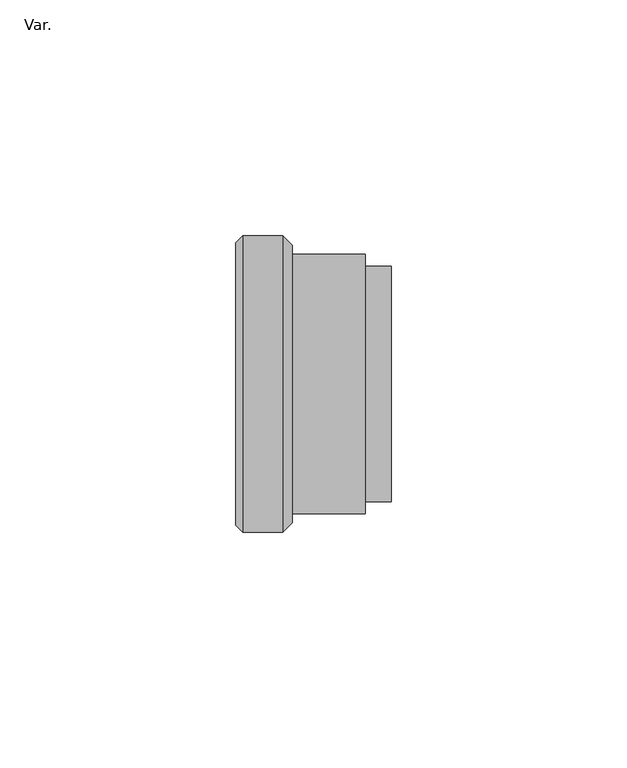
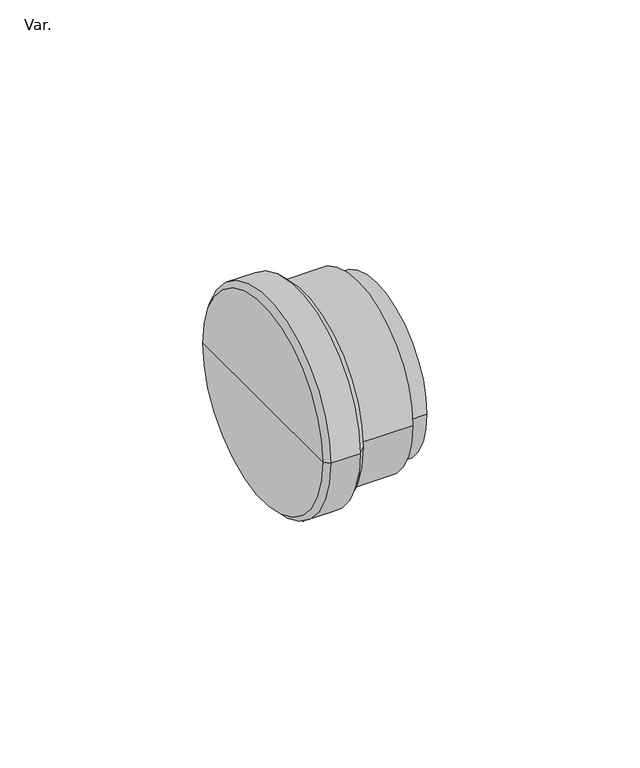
"""IFC4 building model written with IfcOpenShell, lengths in millimetres: pipe fitting geometry, NLRS_52_PIF_UN_HDPE urinal connector socket_Akatherm : Var.."""

import ifcopenshell
import ifcopenshell.guid

model = None  # the IFC model being written
_history = None  # IfcOwnerHistory: only IFC2X3 demands one
_inside = {}  # id of a spatial element -> (the spatial element, [elements in it])
_under = {}  # id of a project, library or spatial element -> (it, [spatial elements below it])
_declared = {}  # id of a project -> (the project, [libraries it declares])
_typed = {}  # id of a type object -> (the type object, [elements of that type])
_made_of = {}  # id of a material, layer set ... -> (it, [elements and type objects made of it])


def new_model(schema):
    """Start an empty IFC model of exactly this schema.

    Asked for "IFC4X3", IfcOpenShell would pick the latest addendum, in which some entities
    have other attributes; the version numbers below select the first issue.
    IFC2X3 requires an IfcOwnerHistory on every rooted entity: one is made here for all.
    """
    global model, _history
    if schema == "IFC4X3":
        model = ifcopenshell.file(schema_version=(4, 3, 0, 0))
    else:
        model = ifcopenshell.file(schema=schema)
    _inside.clear()
    _under.clear()
    _declared.clear()
    _typed.clear()
    _made_of.clear()
    _history = None
    if model.schema == "IFC2X3":
        org = make("IfcOrganization", Name="unknown")
        user = make(
            "IfcPersonAndOrganization",
            ThePerson=make("IfcPerson", FamilyName="unknown"),
            TheOrganization=org,
        )
        app = make(
            "IfcApplication",
            ApplicationDeveloper=org,
            Version="unknown",
            ApplicationFullName="unknown",
            ApplicationIdentifier="unknown",
        )
        _history = make(
            "IfcOwnerHistory",
            OwningUser=user,
            OwningApplication=app,
            ChangeAction="ADDED",
            CreationDate=0,
        )
    return model


def make(cls, **values):
    """One entity of the class cls with the attributes given. An attribute that is None is left unset."""
    return model.create_entity(
        cls, **{name: value for name, value in values.items() if value is not None}
    )


def rooted(cls, **values):
    """An entity with a GlobalId (a new one), such as an element, a storey or a relation."""
    return make(cls, GlobalId=ifcopenshell.guid.new(), OwnerHistory=_history, **values)


def si_unit(unit_type, name, prefix=None):
    """IfcSIUnit, for example si_unit("LENGTHUNIT", "METRE", prefix="MILLI")."""
    return make("IfcSIUnit", UnitType=unit_type, Prefix=prefix, Name=name)


def assignment(units):
    """IfcUnitAssignment: the units of a project."""
    return None if units is None else make("IfcUnitAssignment", Units=units)


def point(xyz):
    """IfcCartesianPoint."""
    return None if xyz is None else make("IfcCartesianPoint", Coordinates=xyz)


def direction(xyz):
    """IfcDirection."""
    return None if xyz is None else make("IfcDirection", DirectionRatios=xyz)


def frame(location, z_axis=None, x_axis=None):
    """IfcAxis2Placement3D, a coordinate frame: its origin and axes. An axis left out is left unset."""
    return make(
        "IfcAxis2Placement3D",
        Location=point(location),
        Axis=direction(z_axis),
        RefDirection=direction(x_axis),
    )


def origin():
    """The frame at (0, 0, 0) with its axes left unset."""
    return frame((0.0, 0.0, 0.0))


def place(relative_to, where):
    """IfcLocalPlacement: puts the frame where relative to a parent placement (None: the world)."""
    return make(
        "IfcLocalPlacement", PlacementRelTo=relative_to, RelativePlacement=where
    )


def context(
    kind, dimensions, precision=None, world=None, true_north=None, identifier=None
):
    """IfcGeometricRepresentationContext, for example the 3D "Model" context."""
    return make(
        "IfcGeometricRepresentationContext",
        ContextIdentifier=identifier,
        ContextType=kind,
        CoordinateSpaceDimension=dimensions,
        Precision=precision,
        WorldCoordinateSystem=world,
        TrueNorth=true_north,
    )


def project(units=None, contexts=None):
    """IfcProject with its units and contexts."""
    return rooted(
        "IfcProject",
        Name="project",
        RepresentationContexts=contexts,
        UnitsInContext=assignment(units),
    )


def spatial(cls, under=None, at=None, **own):
    """A site, building, storey or space (cls), placed at a placement, below another one or the project."""
    s = rooted(cls, ObjectPlacement=at, **own)
    if under is not None:
        _under.setdefault(under.id(), (under, []))[1].append(s)
    return s


def polyline(points):
    """IfcPolyline through the points."""
    return make("IfcPolyline", Points=[point(p) for p in points])


def circle_curve(where, radius):
    """IfcCircle in the frame where."""
    return make("IfcCircle", Position=where, Radius=radius)


def shape(context_of_items, identifier, shape_type, items):
    """IfcShapeRepresentation: the items that make up one representation, for example the "Body"."""
    return make(
        "IfcShapeRepresentation",
        ContextOfItems=context_of_items,
        RepresentationIdentifier=identifier,
        RepresentationType=shape_type,
        Items=items,
    )


def source(mapping_origin, context_of_items, identifier, shape_type, items):
    """IfcRepresentationMap: a shape defined once, which mapped items show again and again."""
    return make(
        "IfcRepresentationMap",
        MappingOrigin=mapping_origin,
        MappedRepresentation=shape(context_of_items, identifier, shape_type, items),
    )


def transform(
    local_origin,
    x_axis=None,
    y_axis=None,
    z_axis=None,
    scale=None,
    scale2=None,
    scale3=None,
    uniform=True,
):
    """IfcCartesianTransformationOperator3D, or its non-uniform kind. x_axis, y_axis, z_axis: its Axis1, 2, 3."""
    if uniform:
        return make(
            "IfcCartesianTransformationOperator3D",
            Axis1=direction(x_axis),
            Axis2=direction(y_axis),
            LocalOrigin=point(local_origin),
            Scale=scale,
            Axis3=direction(z_axis),
        )
    return make(
        "IfcCartesianTransformationOperator3DnonUniform",
        Axis1=direction(x_axis),
        Axis2=direction(y_axis),
        LocalOrigin=point(local_origin),
        Scale=scale,
        Axis3=direction(z_axis),
        Scale2=scale2,
        Scale3=scale3,
    )


def mapped(mapping_source, mapping_target):
    """IfcMappedItem: shows the shape of a source again, moved by a transform."""
    return make(
        "IfcMappedItem", MappingSource=mapping_source, MappingTarget=mapping_target
    )


def made_of(thing, what):
    """Note that an element or type object is made of a material, layer set ...; save() writes the relation."""
    if what is not None:
        _made_of.setdefault(what.id(), (what, []))[1].append(thing)
    return thing


def element(
    cls,
    number,
    at=None,
    inside=None,
    cuts=None,
    type_object=None,
    material=None,
    context=None,
    identifier="Body",
    shape_type=None,
    held_by="IfcProductDefinitionShape",
    body=None,
    shapes=None,
    **own,
):
    """One element of the class cls, such as IfcWall. Its Tag is "e" and its number.

    at: its placement. inside: the storey or other place that contains it. cuts: it is an
    opening in that element (IfcRelVoidsElement). A single representation is given by context,
    identifier, shape_type and body (its items); several are given by shapes. held_by: the class
    of the entity that holds the representations. save() writes the other relations.
    """
    e = rooted(cls, Tag="e%d" % number, ObjectPlacement=at, **own)
    if body is not None:
        shapes = [shape(context, identifier, shape_type, body)]
    if shapes is not None:
        e.Representation = make(held_by, Representations=shapes)
    if inside is not None:
        _inside.setdefault(inside.id(), (inside, []))[1].append(e)
    if cuts is not None:
        rooted(
            "IfcRelVoidsElement", RelatingBuildingElement=cuts, RelatedOpeningElement=e
        )
    if type_object is not None:
        _typed.setdefault(type_object.id(), (type_object, []))[1].append(e)
    return made_of(e, material)


def aggregate(whole, parts):
    """IfcRelAggregates: a whole, such as a stair, and the parts it consists of."""
    return rooted("IfcRelAggregates", RelatingObject=whole, RelatedObjects=parts)


def save(model, path):
    """Write the relations noted so far, then the file.

    IfcRelAggregates (storeys below a building ...), IfcRelContainedInSpatialStructure (elements
    in a storey), IfcRelDefinesByType, IfcRelAssociatesMaterial and IfcRelDeclares: one each for
    every whole, place, type object, material and project.
    """
    for whole, parts in _under.values():
        aggregate(whole, parts)
    for where, things in _inside.values():
        rooted(
            "IfcRelContainedInSpatialStructure",
            RelatedElements=things,
            RelatingStructure=where,
        )
    for kind, things in _typed.values():
        rooted("IfcRelDefinesByType", RelatedObjects=things, RelatingType=kind)
    for what, things in _made_of.values():
        rooted("IfcRelAssociatesMaterial", RelatedObjects=things, RelatingMaterial=what)
    for by, libraries in _declared.values():
        rooted("IfcRelDeclares", RelatingContext=by, RelatedDefinitions=libraries)
    model.write(path)


def plane_surface(at):
    """IfcPlane: the flat surface through the origin of the frame at, square to its z axis."""
    return make("IfcPlane", Position=at)


def cylinder_surface(at, radius):
    """IfcCylindricalSurface: all points at the distance radius from the z axis of the frame at."""
    return make("IfcCylindricalSurface", Position=at, Radius=radius)


def revolved_surface(curve, axis_point, axis_direction):
    """IfcSurfaceOfRevolution: the curve turned about the line through axis_point along axis_direction."""
    return make(
        "IfcSurfaceOfRevolution",
        SweptCurve=make("IfcArbitraryOpenProfileDef", ProfileType="CURVE", Curve=curve),
        AxisPosition=make("IfcAxis1Placement", Location=point(axis_point), Axis=direction(axis_direction)),
    )


def advanced_brep(points, edges, surfaces, faces):
    """IfcAdvancedBrep: a solid bounded by faces that lie on surfaces and meet in shared edges.

    An edge is (start, end): straight between two places in points (the first is 0);
    or (start, end, curve); or (start, end, curve, False) where it runs against its curve.
    A face is (place in surfaces, loops), or (place, loops, False) where it looks against
    its surface's normal. A loop lists edges by number (the first is 1), with a minus sign
    where the edge is run from its end to its start. The first loop is the outer one.
    """
    corners = [point(p) for p in points]
    vertices = [make("IfcVertexPoint", VertexGeometry=c) for c in corners]
    made = []
    for start, end, *more in edges:
        made.append(
            make(
                "IfcEdgeCurve",
                EdgeStart=vertices[start],
                EdgeEnd=vertices[end],
                EdgeGeometry=more[0] if more else make("IfcPolyline", Points=[corners[start], corners[end]]),
                SameSense=more[1] if len(more) > 1 else True,
            )
        )
    hull = []
    for where, loops, *sense in faces:
        bounds = []
        for j, loop in enumerate(loops):
            ring = [make("IfcOrientedEdge", EdgeElement=made[abs(k) - 1], Orientation=k > 0) for k in loop]
            bounds.append(
                make(
                    "IfcFaceOuterBound" if j == 0 else "IfcFaceBound",
                    Bound=make("IfcEdgeLoop", EdgeList=ring),
                    Orientation=True,
                )
            )
        hull.append(make("IfcAdvancedFace", Bounds=bounds, FaceSurface=surfaces[where], SameSense=sense[0] if sense else True))
    return make("IfcAdvancedBrep", Outer=make("IfcClosedShell", CfsFaces=hull))


def var_edb43545(model_context):
    return source(origin(), model_context, "Body", "AdvancedBrep", [
        advanced_brep(
        [(3.25, -25.0, 0.0), (3.25, 25.0, 0.0), (3.25, 0.0, 0.0), (-29.75, 0.0, 0.0), (-29.75, 30.0, 0.0), (-29.75, -30.0, 0.0), (-28.25, 31.5, 0.0), (-28.25, -31.5, 0.0), (-19.75, 31.5, 0.0), (-19.75, -31.5, 0.0), (-17.75, 29.5, 0.0), (-17.75, -29.5, 0.0), (-17.75, 27.5, 0.0), (-17.75, -27.5, 0.0), (-2.25, 27.5, 0.0), (-2.25, -27.5, 0.0), (-2.25, 25.0, 0.0), (-2.25, -25.0, 0.0)],
        [
            (0, 1, circle_curve(frame((3.25, 0.0, 0.0), z_axis=(1.0, 0.0, 0.0), x_axis=(0.0, 1.0, 0.0)), 25.0)),
            (1, 2),
            (2, 0),
            (1, 0, circle_curve(frame((3.25, 0.0, 0.0), z_axis=(1.0, 0.0, 0.0), x_axis=(0.0, 1.0, 0.0)), 25.0)),
            (3, 4),
            (4, 5, circle_curve(frame((-29.75, 0.0, 0.0), z_axis=(-1.0, 0.0, 0.0), x_axis=(0.0, 1.0, 0.0)), 30.0)),
            (5, 3),
            (5, 4, circle_curve(frame((-29.75, 0.0, 0.0), z_axis=(-1.0, 0.0, 0.0), x_axis=(0.0, 1.0, 0.0)), 30.0)),
            (4, 6),
            (6, 7, circle_curve(frame((-28.25, 0.0, 0.0), z_axis=(-1.0, 0.0, 0.0), x_axis=(0.0, 1.0, 0.0)), 31.5)),
            (7, 5),
            (7, 6, circle_curve(frame((-28.25, 0.0, 0.0), z_axis=(-1.0, 0.0, 0.0), x_axis=(0.0, 1.0, 0.0)), 31.5)),
            (6, 8),
            (8, 9, circle_curve(frame((-19.75, 0.0, 0.0), z_axis=(-1.0, 0.0, 0.0), x_axis=(0.0, 1.0, 0.0)), 31.5)),
            (9, 7),
            (9, 8, circle_curve(frame((-19.75, 0.0, 0.0), z_axis=(-1.0, 0.0, 0.0), x_axis=(0.0, 1.0, 0.0)), 31.5)),
            (8, 10),
            (10, 11, circle_curve(frame((-17.75, 0.0, 0.0), z_axis=(-1.0, 0.0, 0.0), x_axis=(0.0, 1.0, 0.0)), 29.5)),
            (11, 9),
            (11, 10, circle_curve(frame((-17.75, 0.0, 0.0), z_axis=(-1.0, 0.0, 0.0), x_axis=(0.0, 1.0, 0.0)), 29.5)),
            (10, 12),
            (12, 13, circle_curve(frame((-17.75, 0.0, 0.0), z_axis=(-1.0, 0.0, 0.0), x_axis=(0.0, 1.0, 0.0)), 27.5)),
            (13, 11),
            (13, 12, circle_curve(frame((-17.75, 0.0, 0.0), z_axis=(-1.0, 0.0, 0.0), x_axis=(0.0, 1.0, 0.0)), 27.5)),
            (12, 14),
            (14, 15, circle_curve(frame((-2.25, 0.0, 0.0), z_axis=(-1.0, 0.0, 0.0), x_axis=(0.0, 1.0, 0.0)), 27.5)),
            (15, 13),
            (15, 14, circle_curve(frame((-2.25, 0.0, 0.0), z_axis=(-1.0, 0.0, 0.0), x_axis=(0.0, 1.0, 0.0)), 27.5)),
            (14, 16),
            (16, 17, circle_curve(frame((-2.25, 0.0, 0.0), z_axis=(-1.0, 0.0, 0.0), x_axis=(0.0, 1.0, 0.0)), 25.0)),
            (17, 15),
            (17, 16, circle_curve(frame((-2.25, 0.0, 0.0), z_axis=(-1.0, 0.0, 0.0), x_axis=(0.0, 1.0, 0.0)), 25.0)),
            (16, 1),
            (0, 17),
        ],
        [
            plane_surface(frame((3.25, 0.0, 0.0), z_axis=(1.0, 0.0, 0.0), x_axis=(0.0, 1.0, 0.0))),
            plane_surface(frame((-29.75, 0.0, 0.0), z_axis=(-1.0, 0.0, 0.0), x_axis=(0.0, 1.0, 0.0))),
            revolved_surface(polyline([(-28.25, 31.5, 0.0), (-29.75, 30.0, 0.0)]), (48.25, 0.0, 0.0), (-1.0, 0.0, 0.0)),
            cylinder_surface(frame((48.25, 0.0, 0.0), z_axis=(-1.0, 0.0, 0.0), x_axis=(0.0, 1.0, 0.0)), 31.5),
            revolved_surface(polyline([(-17.75, 29.5, 0.0), (-19.75, 31.5, 0.0)]), (48.25, 0.0, 0.0), (-1.0, 0.0, 0.0)),
            plane_surface(frame((-17.75, 0.0, 0.0), z_axis=(1.0, 0.0, 0.0), x_axis=(0.0, 1.0, 0.0))),
            cylinder_surface(frame((48.25, 0.0, 0.0), z_axis=(-1.0, 0.0, 0.0), x_axis=(0.0, 1.0, 0.0)), 27.5),
            plane_surface(frame((-2.25, 0.0, 0.0), z_axis=(1.0, 0.0, 0.0), x_axis=(0.0, 1.0, 0.0))),
            cylinder_surface(frame((48.25, 0.0, 0.0), z_axis=(-1.0, 0.0, 0.0), x_axis=(0.0, 1.0, 0.0)), 25.0),
        ],
        [
            (0, [[1, 2, 3]]),
            (0, [[4, -3, -2]]),
            (1, [[5, 6, 7]]),
            (1, [[-7, 8, -5]]),
            (2, [[-6, 9, 10, 11]]),
            (2, [[-8, -11, 12, -9]]),
            (3, [[-10, 13, 14, 15]]),
            (3, [[-12, -15, 16, -13]]),
            (4, [[-14, 17, 18, 19]]),
            (4, [[-16, -19, 20, -17]]),
            (5, [[-18, 21, 22, 23]]),
            (5, [[-20, -23, 24, -21]]),
            (6, [[-22, 25, 26, 27]]),
            (6, [[-24, -27, 28, -25]]),
            (7, [[-26, 29, 30, 31]]),
            (7, [[-28, -31, 32, -29]]),
            (8, [[-30, 33, -1, 34]]),
            (8, [[-32, -34, -4, -33]]),
        ],
    ),
    ])


if __name__ == "__main__":
    model = new_model("IFC4")
    model_context = context("Model", 3, world=origin())
    ifc_project = project(units=[si_unit("LENGTHUNIT", "METRE", prefix="MILLI")], contexts=[model_context])
    site = spatial("IfcSite", under=ifc_project)
    building = spatial("IfcBuilding", under=site)
    placement = place(None, origin())
    var_shape = var_edb43545(model_context)
    element("IfcPipeFitting", 1, ObjectType="NLRS_52_PIF_UN_HDPE urinal connector socket_Akatherm : Var.", at=placement, inside=building, context=model_context, shape_type="MappedRepresentation", body=[
        mapped(var_shape, transform((0.0, 0.0, 0.0), x_axis=(1.0, 0.0, 0.0), y_axis=(0.0, 1.0, 0.0), z_axis=(0.0, 0.0, 1.0))),
    ])
    save(model, "model.ifc")
